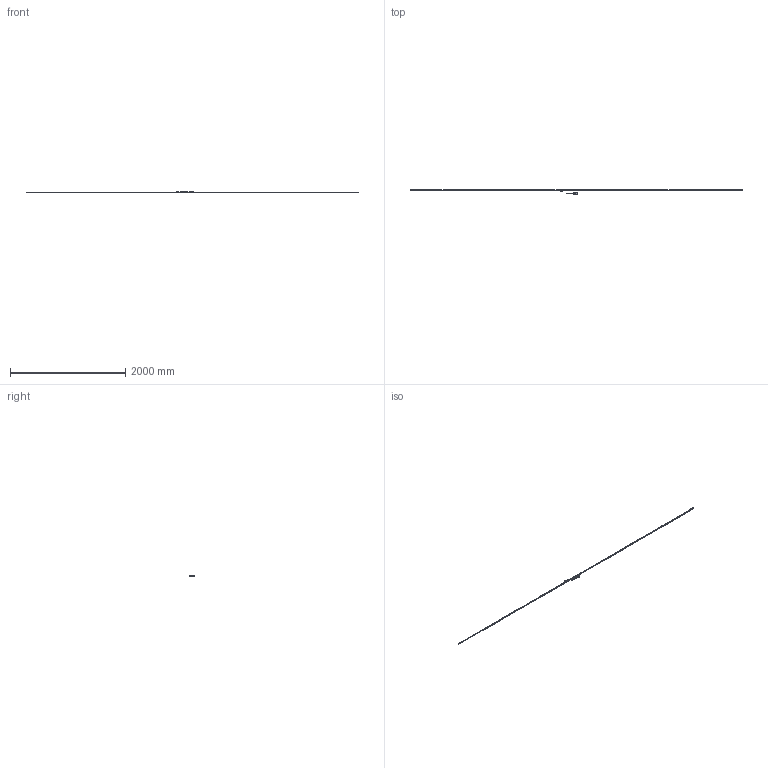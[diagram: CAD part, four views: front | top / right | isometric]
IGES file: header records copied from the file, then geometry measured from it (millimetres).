
Start section: Elysium IGES Interface
Global section: file name: 90H\\Utsu119s\kiyo_cad\data\3D\ABS ST1300\HP掲載用_201803\ST1300-Dタイプ\PKG\ST1300-5600D.igs; native system: Creo Elements/Direct Modeling 18.1B  29-Sep-2012; preprocessor: Creo Element/Direct IGES_3D V2.2; author: Unknown; organization: Unknown; date: 20180301.150622; units: millimetre
Bounding box: 5773 x 88.3 x 30.1 mm (x, y, z)
Volume: 507297.2 mm3; surface area: 320629.2 mm2
Topology: 3 solids, 10 shells, 5065 faces, 13648 edges, 8814 vertices
Faces by surface type: bspline 5065
